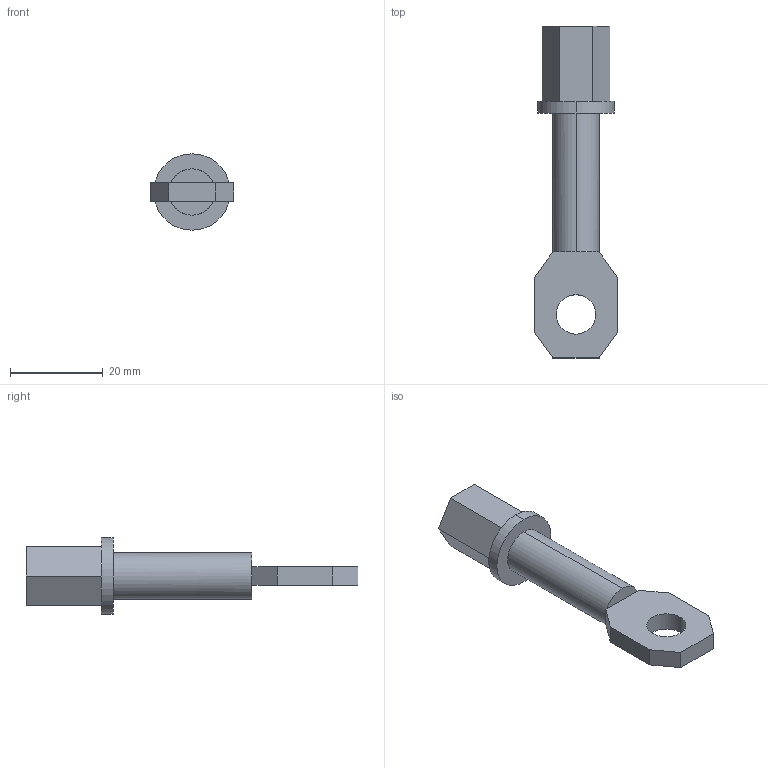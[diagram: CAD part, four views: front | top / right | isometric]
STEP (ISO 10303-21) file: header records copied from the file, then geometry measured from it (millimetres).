
FILE_DESCRIPTION (( 'STEP AP214' ), '1' );
FILE_NAME ('ÊÇÏ OptiMat D100, D160, D250 âûâîä êîðîòêèé.STEP', '2023-04-26T11:23:13', ( '' ), ( '' ), 'SwSTEP 2.0', 'SolidWorks 2018', '' );
FILE_SCHEMA (( 'AUTOMOTIVE_DESIGN' ));
Length unit declared in the file: millimetre
Products named in the file (1): ÊÇÏ OptiMat D100, D160, D250 âûâîä êîðîòêèé
Bounding box: 18 x 71.7 x 16.5 mm (x, y, z)
Volume: 6379.3 mm3; surface area: 3148.1 mm2
Topology: 1 solids, 1 shells, 30 faces, 72 edges, 46 vertices
Faces by surface type: plane 24, cylinder 6
Entity records: 904 total; most frequent: DIRECTION 152, CARTESIAN_POINT 149, ORIENTED_EDGE 144, EDGE_CURVE 72, VECTOR 54, LINE 54, AXIS2_PLACEMENT_3D 49, VERTEX_POINT 46
